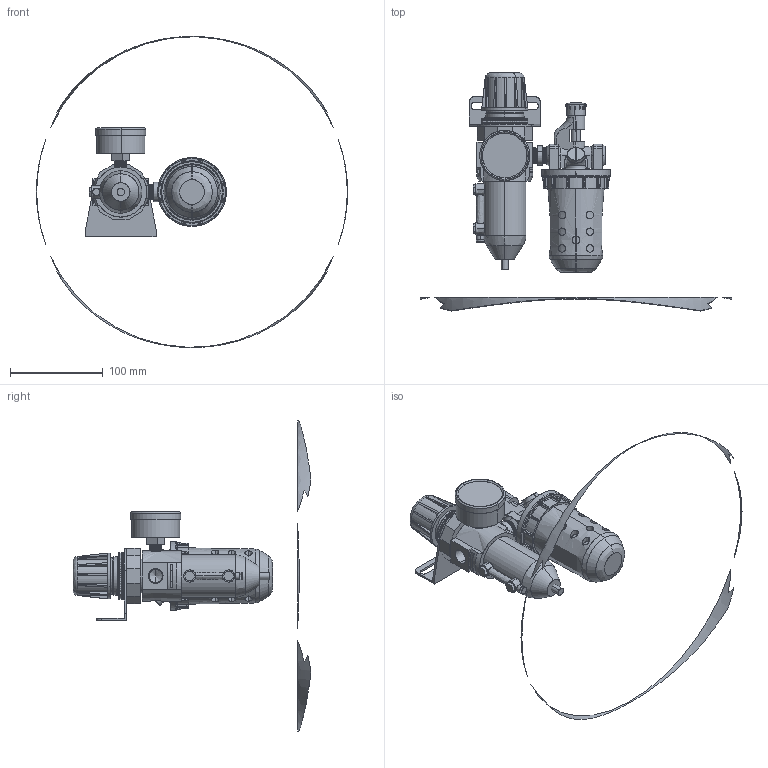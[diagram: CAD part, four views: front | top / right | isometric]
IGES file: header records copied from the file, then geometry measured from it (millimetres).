
Start section: SolidWorks IGES file using analytic representation for surfaces
Global section: file name: C:\Users\Toshiba\Desktop\U658-03#YB#.IGS; native system: SolidWorks 2014; preprocessor: SolidWorks 2014; author: Toshiba; date: 160216.145954; units: millimetre
Bounding box: 335.27 x 256.25 x 335.15 mm (x, y, z)
Surface area: 129051.1 mm2 (no closed solid volume)
Topology: 0 solids, 0 shells, 1213 faces, 15414 edges, 15402 vertices
Faces by surface type: bspline 792, revolution 421
